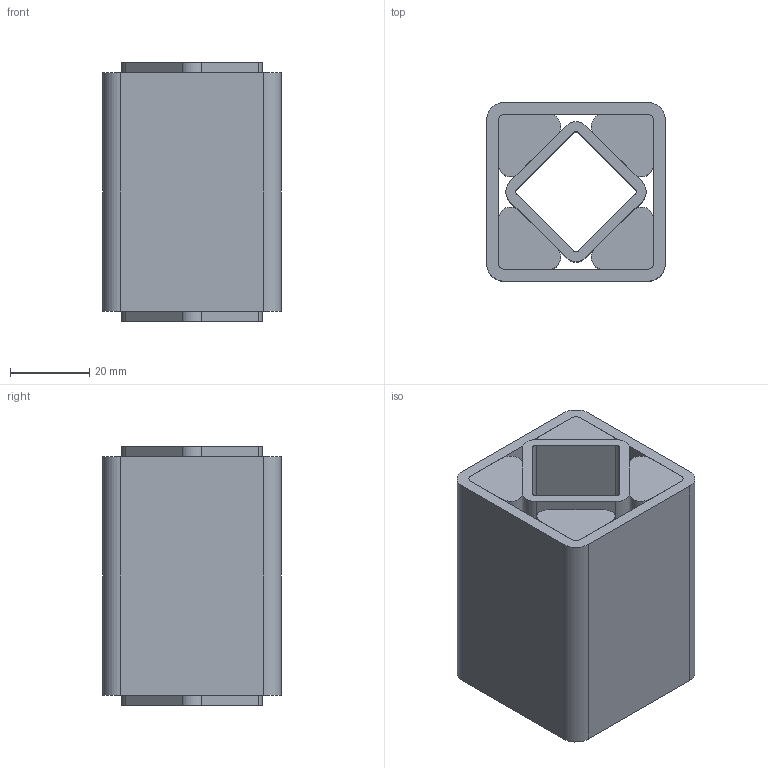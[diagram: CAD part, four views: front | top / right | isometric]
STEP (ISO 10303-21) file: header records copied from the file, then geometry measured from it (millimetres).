
FILE_DESCRIPTION((''),'2;1');
FILE_NAME('D:\ROSTA\Gummifederelemente\3D\DR-S27x60_01021011.stp','2005-02-02T06:12:13',('Administrator'),(''),'Autodesk Inventor 8','Autodesk Inventor 8','');
FILE_SCHEMA(('AUTOMOTIVE_DESIGN { 1 0 10303 214 1 1 1 1 }'));
Length unit declared in the file: millimetre
Products named in the file (4): Baugruppe8; 4.4.3728-005; 4.4.3728-006; 4.4.3728-007
Assembly tree (6 placements, depth 2):
  Baugruppe8
    4.4.3728-005
    4.4.3728-006
    4.4.3728-007  x4
Bounding box: 45 x 45 x 65 mm (x, y, z)
Volume: 86714.3 mm3; surface area: 47229.4 mm2
Topology: 6 solids, 6 shells, 68 faces, 168 edges, 112 vertices
Faces by surface type: plane 40, cylinder 28
Entity records: 1491 total; most frequent: DIRECTION 260, CARTESIAN_POINT 244, ORIENTED_EDGE 228, EDGE_CURVE 114, AXIS2_PLACEMENT_3D 92, VERTEX_POINT 76, VECTOR 76, LINE 76
